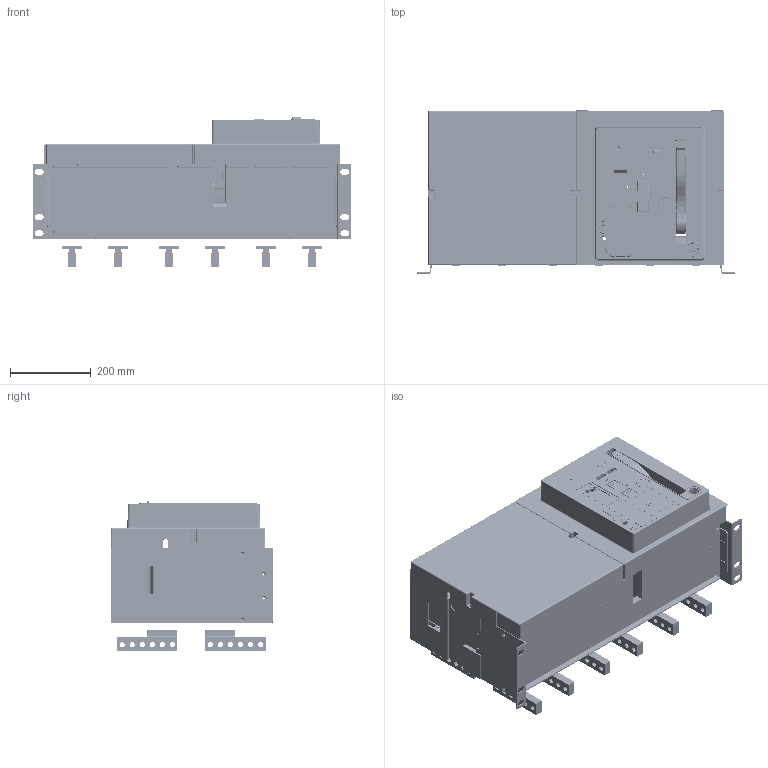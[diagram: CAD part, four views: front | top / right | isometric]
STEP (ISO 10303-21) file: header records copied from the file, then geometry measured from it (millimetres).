
FILE_DESCRIPTION((''),'2;1');
FILE_NAME('HG_24_D403_633_V_FIX_ASM_ASM','2019-03-29T',('HHI'),(''),'PRO/ENGINEER BY PARAMETRIC TECHNOLOGY CORPORATION, 2012453','PRO/ENGINEER BY PARAMETRIC TECHNOLOGY CORPORATION, 2012453','');
FILE_SCHEMA(('CONFIG_CONTROL_DESIGN'));
Products named in the file (26): PRT0185; PRT0186; PRT0188; PRT0189; PRT0190; PRT0191; ASM0056_ASM; PRT0192; PRT0193; PRT0194; ASM0057_ASM; PRT0197; PRT0198; ASM0055_ASM; PRT0199; PRT0200; PRT0201; PRT0202; PRT0203; ASM0038_ASM; 3AT-05089_1; D633_V_FIX_ASM_3_ASM; HG_FRONT_COVER_40; 4AT-06477S03; 4AT-06477S04; HG_24_D403_633_V_FIX_ASM_ASM
Assembly tree (47 placements, depth 6):
  HG_24_D403_633_V_FIX_ASM_ASM
    D633_V_FIX_ASM_3_ASM
      ASM0038_ASM
        PRT0185  x2
        PRT0186  x2
        ASM0055_ASM
          ASM0056_ASM
            PRT0188
            PRT0189
            PRT0190
            PRT0191
          ASM0057_ASM
            PRT0192
            PRT0193
            PRT0194
          PRT0197
          PRT0198
        PRT0199
        PRT0200  x6
        PRT0201
        PRT0202
        PRT0203
      3AT-05089_1  x16
    HG_FRONT_COVER_40
    4AT-06477S03
    4AT-06477S04
Bounding box: 791.4 x 404.88 x 371.63 mm (x, y, z)
Volume: 15680165.6 mm3; surface area: 5541256.5 mm2
Topology: 42 solids, 58 shells, 10791 faces, 30058 edges, 19681 vertices
Faces by surface type: plane 6825, cylinder 3233, torus 259, cone 148, extrusion 145, sphere 106, bspline 75
Entity records: 240299 total; most frequent: CARTESIAN_POINT 49081, ORIENTED_EDGE 40518, DIRECTION 38759, EDGE_CURVE 20283, VECTOR 14847, LINE 14704, VERTEX_POINT 13202, AXIS2_PLACEMENT_3D 11956
